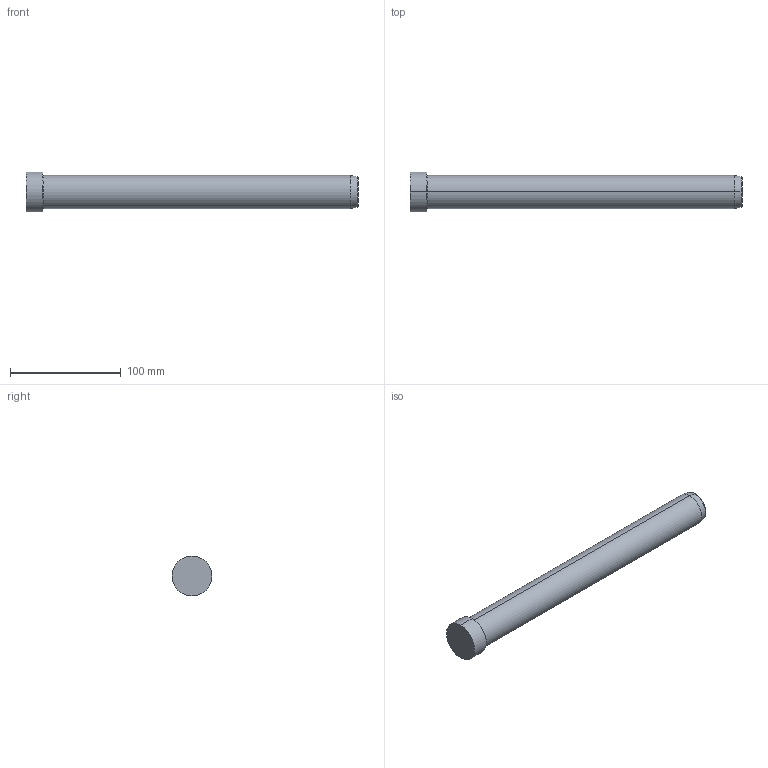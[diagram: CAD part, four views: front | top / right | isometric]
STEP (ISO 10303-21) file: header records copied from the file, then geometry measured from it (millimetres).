
FILE_DESCRIPTION( ( 'STEP AP203' ), '1' );
FILE_NAME( 'D:/Delta 3 D/D01D/30/D01D - 30x300.step', '2003-01-02T23:35:15', ( ' ' ), ( ' ' ), 'XStep 1.0', ' ', ' ' );
FILE_SCHEMA( ( 'CONFIG_CONTROL_DESIGN' ) );
Length unit declared in the file: metre
Products named in the file (1): 1
Bounding box: 300 x 36 x 36 mm (x, y, z)
Volume: 216303 mm3; surface area: 30485.1 mm2
Topology: 1 solids, 1 shells, 14 faces, 26 edges, 16 vertices
Faces by surface type: revolution 8, bspline 6
Entity records: 437 total; most frequent: CARTESIAN_POINT 121, ORIENTED_EDGE 52, DIRECTION 50, EDGE_CURVE 26, AXIS2_PLACEMENT_3D 17, EDGE_LOOP 16, VERTEX_POINT 16, CIRCLE 16
